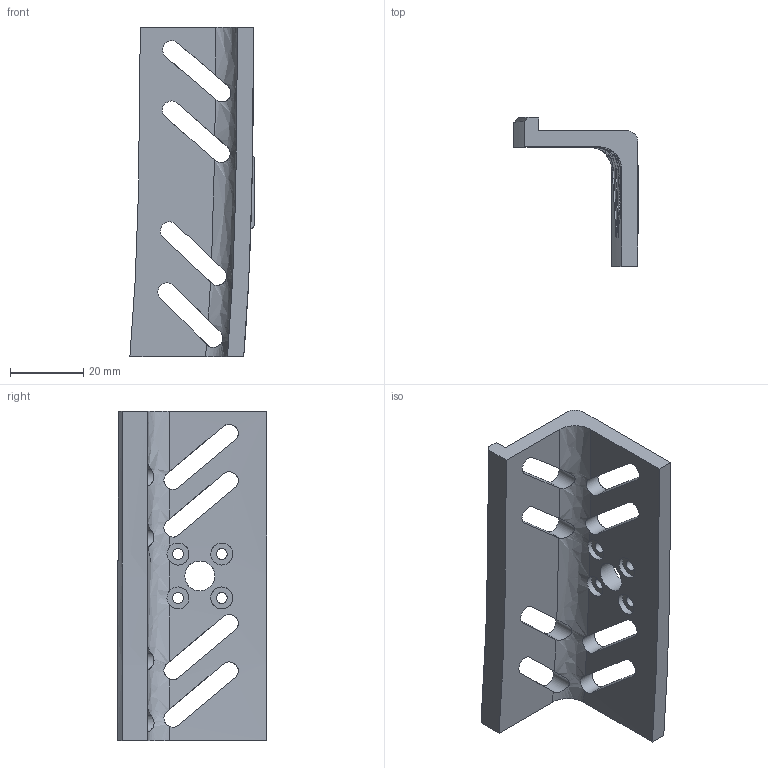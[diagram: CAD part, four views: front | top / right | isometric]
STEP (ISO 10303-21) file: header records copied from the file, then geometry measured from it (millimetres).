
FILE_DESCRIPTION(/* description */ (''),/* implementation_level */ '2;1');
FILE_NAME(/* name */ 'F:/3DPrint/Source files/Egna/Bilen/i20/i20 Base bent v33.step',/* time_stamp */ '2018-06-25T15:00:37+02:00',/* author */ ('daniel.soderlund'),/* organization */ (''),/* preprocessor_version */ 'ST-DEVELOPER v17',/* originating_system */ 'Autodesk Translation Framework v7.1.0.215',/* authorisation */ '');
FILE_SCHEMA (('AUTOMOTIVE_DESIGN { 1 0 10303 214 3 1 1 }'));
Length unit declared in the file: millimetre
Products named in the file (1): i20 Base bent
Bounding box: 33.97 x 40.81 x 90 mm (x, y, z)
Volume: 22617.9 mm3; surface area: 13423.8 mm2
Topology: 1 solids, 1 shells, 63 faces, 201 edges, 135 vertices
Faces by surface type: plane 27, cylinder 25, bspline 11
Full cylindrical faces by diameter (mm): 3 x4, 6 x4, 8.2 x1
Entity records: 4095 total; most frequent: CARTESIAN_POINT 2445, ORIENTED_EDGE 402, DIRECTION 230, EDGE_CURVE 201, VERTEX_POINT 135, B_SPLINE_CURVE_WITH_KNOTS 104, EDGE_LOOP 84, AXIS2_PLACEMENT_3D 80
